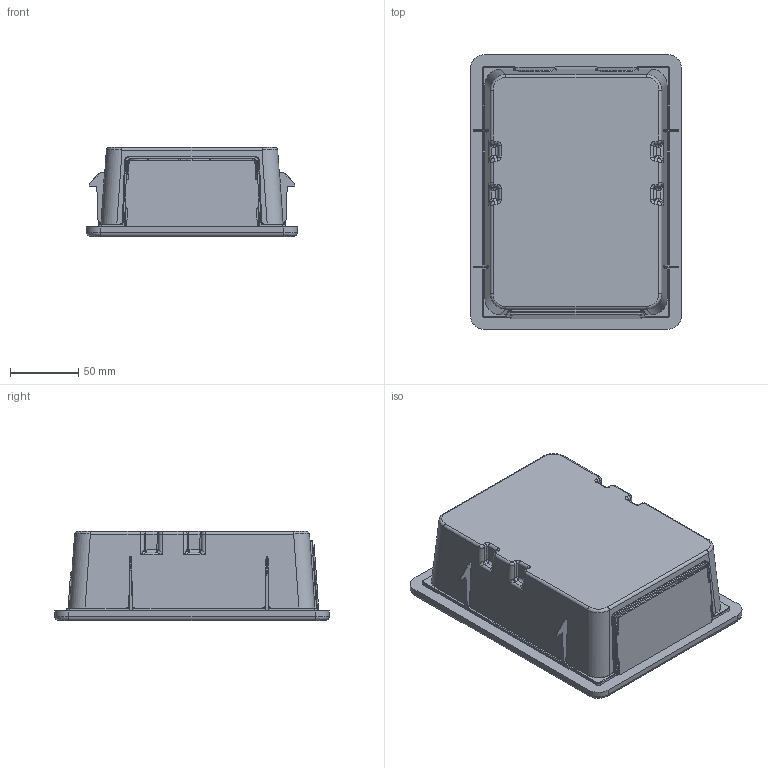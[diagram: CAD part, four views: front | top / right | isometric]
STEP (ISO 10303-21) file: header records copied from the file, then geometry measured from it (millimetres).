
FILE_DESCRIPTION(('STEP AP203'), '1');
FILE_NAME('ÂÐ.493111.002.000-VT.ICBOX.1', '2025-11-25T10:25:09', ('verevichevva'), ('Vesta'), 'C3D Converter', 'C3D Toolkit', '');
FILE_SCHEMA(('CONFIG_CONTROL_DESIGN'));
Length unit declared in the file: millimetre
Products named in the file (1): ВР.493111.002.000
Bounding box: 154.74 x 201.24 x 65.3 mm (x, y, z)
Volume: 499424.4 mm3; surface area: 217044.7 mm2
Topology: 1 solids, 1 shells, 3044 faces, 7784 edges, 4585 vertices
Faces by surface type: bspline 984, cylinder 879, plane 761, torus 264, cone 116, sphere 40
Full cylindrical faces by diameter (mm): 4 x1, 10 x1, 22.5 x2, 26 x3, 26.1 x2, 27.2 x1, 30 x2, 31 x2
Entity records: 179163 total; most frequent: CARTESIAN_POINT 115813, ORIENTED_EDGE 15096, DIRECTION 10032, EDGE_CURVE 7548, VERTEX_POINT 4582, AXIS2_PLACEMENT_3D 3788, B_SPLINE_CURVE_WITH_KNOTS 3230, EDGE_LOOP 3156
